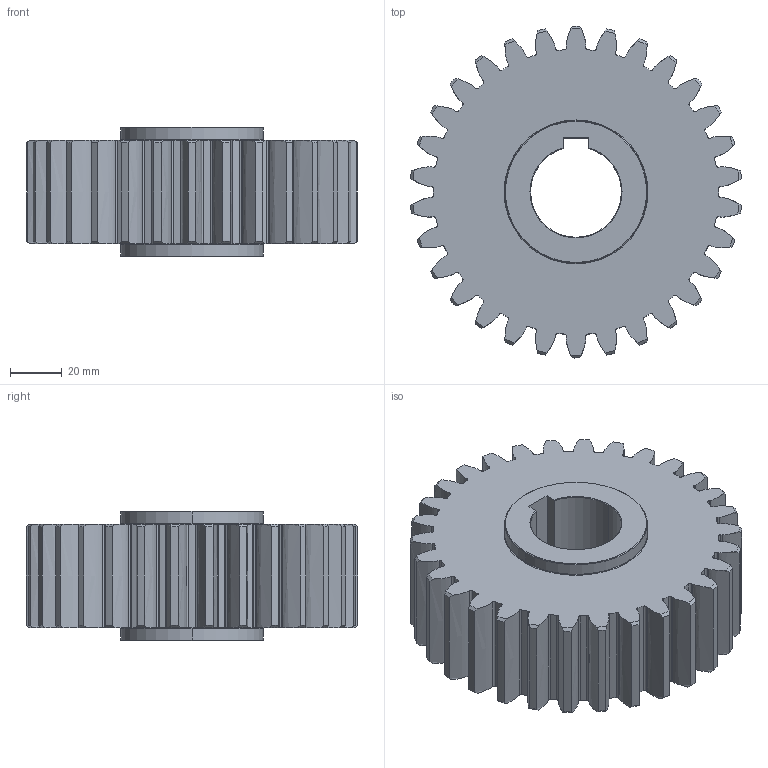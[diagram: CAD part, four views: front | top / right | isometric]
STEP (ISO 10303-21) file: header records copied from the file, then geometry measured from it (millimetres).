
FILE_DESCRIPTION (( 'STEP AP214' ), '1' );
FILE_NAME ('1SG__S040030S.STEP', '2021-08-03T07:50:44', ( '' ), ( '' ), 'SwSTEP 2.0', 'SolidWorks 2021', '' );
FILE_SCHEMA (( 'AUTOMOTIVE_DESIGN' ));
Length unit declared in the file: millimetre
Products named in the file (1): 1SG__S040030S
Bounding box: 127.57 x 128 x 50 mm (x, y, z)
Volume: 420202.2 mm3; surface area: 58186.7 mm2
Topology: 1 solids, 1 shells, 314 faces, 978 edges, 668 vertices
Faces by surface type: cylinder 113, bspline 90, cone 70, plane 37, torus 4
Entity records: 19752 total; most frequent: CARTESIAN_POINT 11363, ORIENTED_EDGE 1956, DIRECTION 1548, EDGE_CURVE 978, VERTEX_POINT 668, AXIS2_PLACEMENT_3D 589, LINE 370, VECTOR 370
